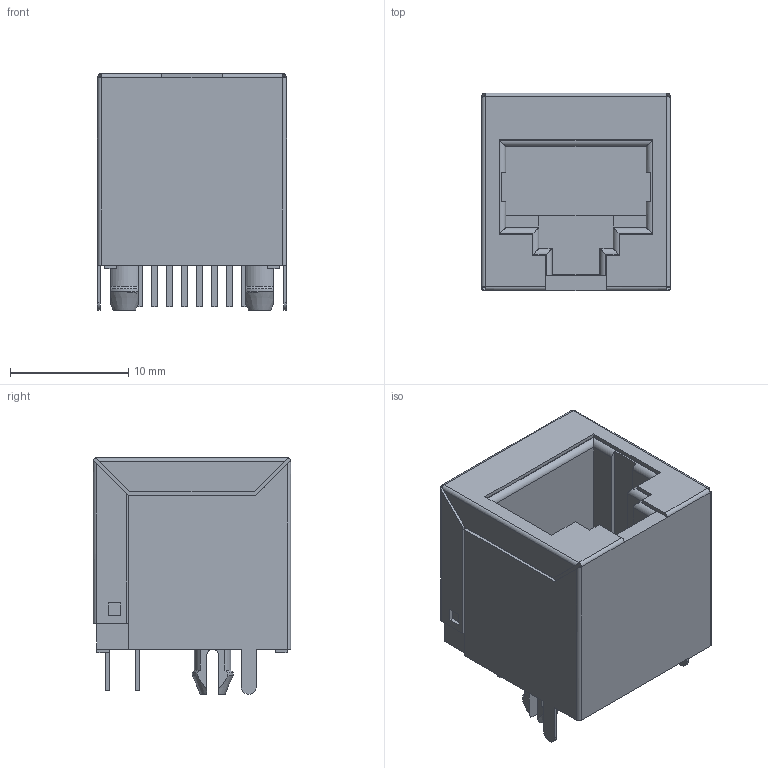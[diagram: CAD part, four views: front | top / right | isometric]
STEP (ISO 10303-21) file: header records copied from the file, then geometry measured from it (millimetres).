
FILE_DESCRIPTION((''),'2;1');
FILE_NAME('N311X-064-0X_STP_JACK','2016-08-29T',('gcb'),(''),'PRO/ENGINEER BY PARAMETRIC TECHNOLOGY CORPORATION, 2010370','PRO/ENGINEER BY PARAMETRIC TECHNOLOGY CORPORATION, 2010370','');
FILE_SCHEMA(('CONFIG_CONTROL_DESIGN'));
Length unit declared in the file: millimetre
Products named in the file (1): N311X-064-0X_STP_JACK
Bounding box: 16 x 16.7 x 20 mm (x, y, z)
Volume: 2663.9 mm3; surface area: 2665.9 mm2
Topology: 1 solids, 1 shells, 249 faces, 693 edges, 450 vertices
Faces by surface type: plane 193, cylinder 36, cone 12, sphere 8
Entity records: 8061 total; most frequent: CARTESIAN_POINT 1708, ORIENTED_EDGE 1374, DIRECTION 1215, EDGE_CURVE 687, VECTOR 533, LINE 533, VERTEX_POINT 450, AXIS2_PLACEMENT_3D 341
